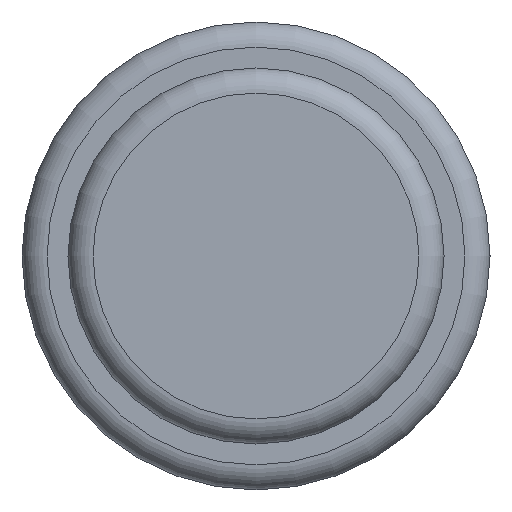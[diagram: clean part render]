
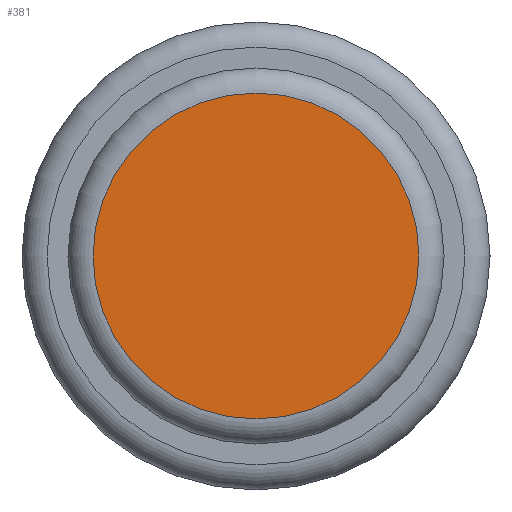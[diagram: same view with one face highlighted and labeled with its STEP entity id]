
A CAD part, left-side view. The second image highlights one B-rep face of the part: STEP entity #381.
In plain terms, the highlighted planar face has unit normal (-1, 0, 0).
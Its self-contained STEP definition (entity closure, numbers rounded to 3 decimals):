
#4 = EDGE_LOOP ( 'NONE', ( #307 ) ) ;
#7 = CARTESIAN_POINT ( 'NONE',  ( -305., 0., 0. ) ) ;
#11 = DIRECTION ( 'NONE',  ( 1., 0., 0. ) ) ;
#64 = CARTESIAN_POINT ( 'NONE',  ( -305., 0., -19.5 ) ) ;
#65 = EDGE_CURVE ( 'NONE', #95, #95, #112, .T. ) ;
#95 = VERTEX_POINT ( 'NONE', #64 ) ;
#112 = CIRCLE ( 'NONE', #133, 19.5 ) ;
#133 = AXIS2_PLACEMENT_3D ( 'NONE', #183, #265, #352 ) ;
#183 = CARTESIAN_POINT ( 'NONE',  ( -305., 0., 0. ) ) ;
#265 = DIRECTION ( 'NONE',  ( -1., 0., 0. ) ) ;
#307 = ORIENTED_EDGE ( 'NONE', *, *, #65, .T. ) ;
#309 = DIRECTION ( 'NONE',  ( 0., 0., -1. ) ) ;
#341 = AXIS2_PLACEMENT_3D ( 'NONE', #7, #11, #309 ) ;
#347 = FACE_OUTER_BOUND ( 'NONE', #4, .T. ) ;
#352 = DIRECTION ( 'NONE',  ( 0., 0., -1. ) ) ;
#367 = PLANE ( 'NONE',  #341 ) ;
#381 = ADVANCED_FACE ( 'NONE', ( #347 ), #367, .F. ) ;
